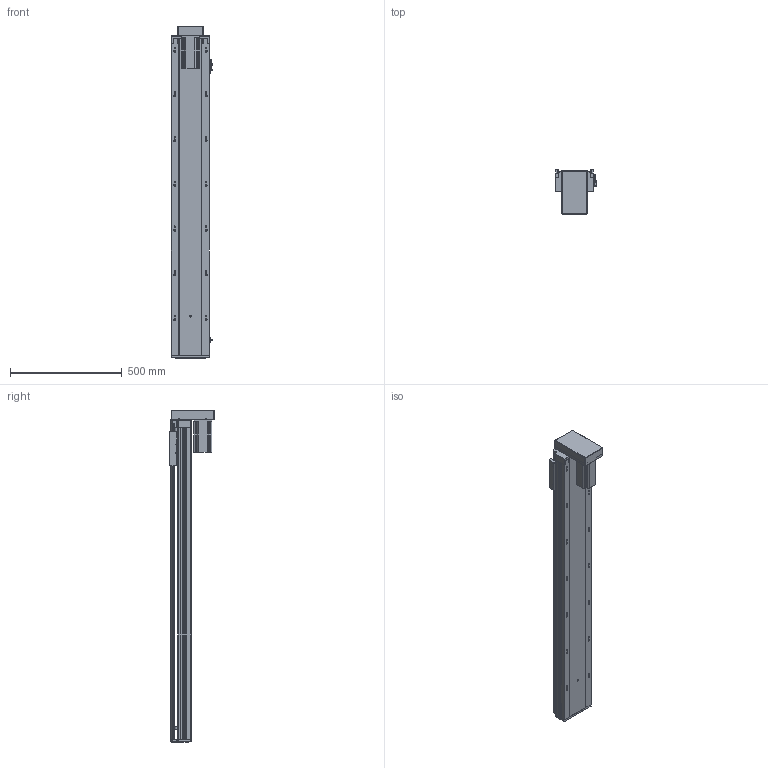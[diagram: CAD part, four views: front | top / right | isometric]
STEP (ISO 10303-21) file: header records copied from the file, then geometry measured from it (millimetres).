
FILE_DESCRIPTION (( 'STEP AP203' ), '1' );
FILE_NAME ('RY170-L2510-1400-BK.SLDASM_1150.step', '2021-03-12T09:26:02', ( '盈信电脑' ), ( '东莞市道滘镇水果街19号' ), 'SwSTEP 2.0', 'SolidWorks 2012', '' );
FILE_SCHEMA (( 'CONFIG_CONTROL_DESIGN' ));
Length unit declared in the file: millimetre
Products named in the file (14): RY170-L2510-1400-BK.SLDASM_1150; 怢湛750W萇儂ㄗ80遺ㄘ; RY170狟殏萇儂欶; 滅袉蝶18-15; RY170-狟殏750W萇儂傷; RY170-狟殏萇儂假蚾啣; 滅袉蝶18-20; RY170转折电机端支撑座(7004); 覜茼ん672; RY170-1400倰第裔啣-BK_1150; RY170外置感应片(200共用）; RY170綴裔啣; 改造-RY170铝滑块25丝杆螺母; RY170-1400倰第菁釱-BK_1150
Assembly tree (15 placements, depth 3):
  RY170-L2510-1400-BK.SLDASM_1150
    RY170-1400倰第菁釱-BK_1150
    改造-RY170铝滑块25丝杆螺母
    RY170-1400倰第裔啣-BK_1150
    RY170綴裔啣
    覜茼ん672  x3
    RY170外置感应片(200共用）
    滅袉蝶18-20
    RY170转折电机端支撑座(7004)
    RY170-狟殏750W萇儂傷
      RY170-狟殏萇儂假蚾啣
      RY170狟殏萇儂欶
      怢湛750W萇儂ㄗ80遺ㄘ
    滅袉蝶18-15
Bounding box: 183.7 x 200.8 x 1484.5 mm (x, y, z)
Volume: 7952015.6 mm3; surface area: 2501221.8 mm2
Topology: 14 solids, 14 shells, 2190 faces, 6261 edges, 4004 vertices
Faces by surface type: plane 1082, cylinder 891, cone 198, bspline 19
Entity records: 70434 total; most frequent: CARTESIAN_POINT 16789, ORIENTED_EDGE 11218, DIRECTION 10429, EDGE_CURVE 5609, VERTEX_POINT 3684, VECTOR 3481, LINE 3481, AXIS2_PLACEMENT_3D 3474
